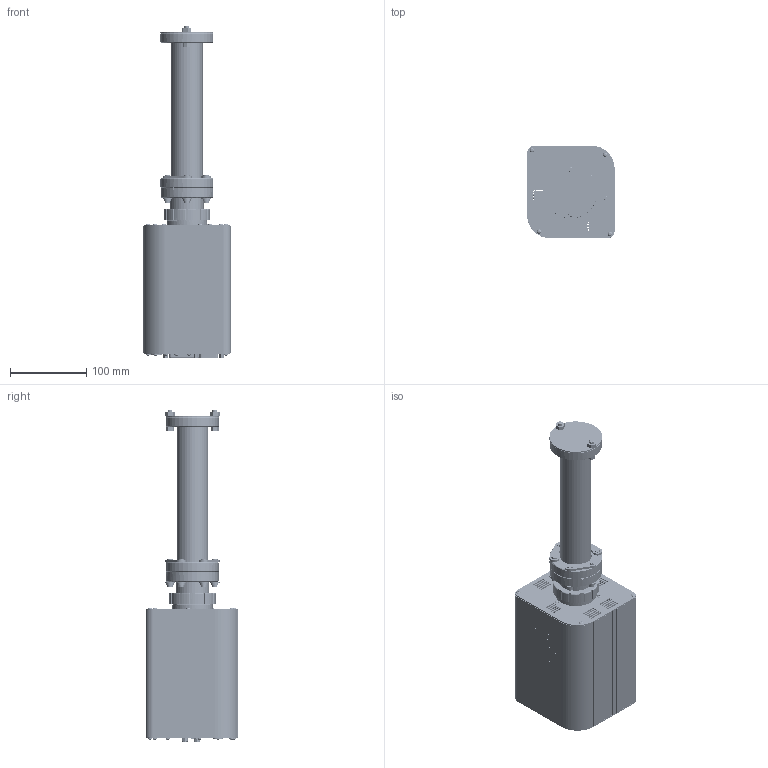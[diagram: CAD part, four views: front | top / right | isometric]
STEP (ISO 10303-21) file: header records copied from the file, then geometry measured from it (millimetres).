
FILE_DESCRIPTION(/* description */ (''),/* implementation_level */ '2;1');
FILE_NAME(/* name */ 'Linxon RGA Faraday sensor Extended I-O.stp',/* time_stamp */ '2019-09-10T14:43:11-04:00',/* author */ (''),/* organization */ (''),/* preprocessor_version */ 'ST-DEVELOPER v16',/* originating_system */ 'SIEMENS PLM Software NX 10.0',/* authorisation */ '');
FILE_SCHEMA (('AP203_CONFIGURATION_CONTROLLED_3D_DESIGN_OF_MECHANICAL_PARTS_AND_ASSEMBLIES_MIM_LF { 1 0 10303 403 2 1 2}'));
Products named in the file (1): cbro466CC411mlbq
Bounding box: 128.68 x 121.67 x 436.05 mm (x, y, z)
Volume: 661460.6 mm3; surface area: 486584.1 mm2
Topology: 121 solids, 447 shells, 4109 faces, 11549 edges, 8225 vertices
Faces by surface type: plane 2463, cylinder 1000, cone 387, extrusion 134, bspline 85, torus 34, sphere 6
Full cylindrical faces by diameter (mm): 0.127 x1, 0.635 x15, 0.716 x4, 0.762 x4, 1.1 x2, 1.143 x15, 1.575 x23, 1.6 x7, 1.68 x2, 1.778 x2, 1.905 x1, 2.05 x3, 2.083 x15, 2.184 x2, 2.261 x4, 2.413 x2, 2.438 x6, 2.489 x2, 2.497 x1, 2.5 x10, 2.8 x1, 2.84 x4, 2.845 x2, 3 x15, 3.048 x21, 3.099 x2, 3.1 x3, 3.15 x2, 3.175 x1, 3.264 x1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
Entity records: 159518 total; most frequent: CARTESIAN_POINT 57862, ORIENTED_EDGE 20286, DIRECTION 19463, EDGE_CURVE 10808, VERTEX_POINT 8037, VECTOR 6613, LINE 6479, AXIS2_PLACEMENT_3D 6425
